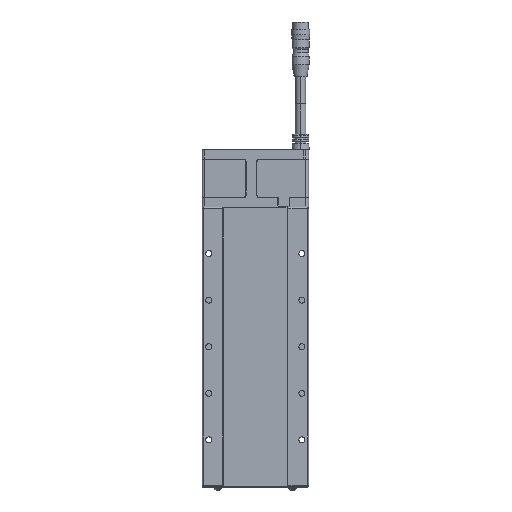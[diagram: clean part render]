
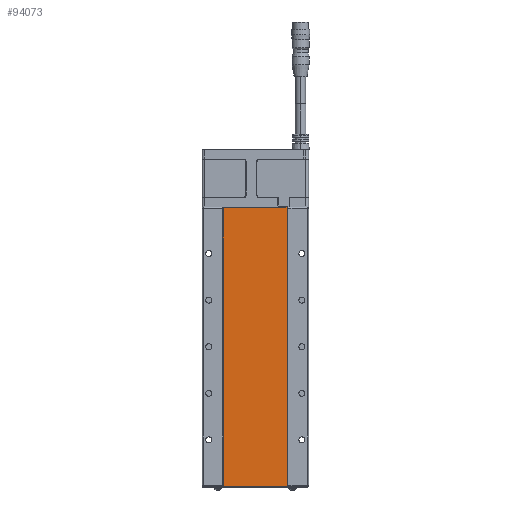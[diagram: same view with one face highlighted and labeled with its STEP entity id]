
A CAD part, front view. The second image highlights one B-rep face of the part: STEP entity #94073.
In plain terms, the highlighted planar face has unit normal (0, -1, 0).
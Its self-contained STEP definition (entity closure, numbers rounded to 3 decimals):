
#158 = DIRECTION ( 'NONE',  ( 0., 1., 0. ) ) ;
#693 = CARTESIAN_POINT ( 'NONE',  ( -24.3, 0.5, 209.8 ) ) ;
#1294 = ORIENTED_EDGE ( 'NONE', *, *, #10827, .F. ) ;
#3027 = CARTESIAN_POINT ( 'NONE',  ( -24.3, 0.5, 0.2 ) ) ;
#3192 = VERTEX_POINT ( 'NONE', #95956 ) ;
#4193 = DIRECTION ( 'NONE',  ( -1., 0., 0. ) ) ;
#5113 = CIRCLE ( 'NONE', #63849, 0.5 ) ;
#9064 = ORIENTED_EDGE ( 'NONE', *, *, #69257, .F. ) ;
#9239 = VECTOR ( 'NONE', #31533, 1000. ) ;
#9788 = ORIENTED_EDGE ( 'NONE', *, *, #12616, .T. ) ;
#10712 = AXIS2_PLACEMENT_3D ( 'NONE', #102258, #86570, #102789 ) ;
#10827 = EDGE_CURVE ( 'NONE', #105208, #3192, #33896, .T. ) ;
#11291 = DIRECTION ( 'NONE',  ( -1., 0., 0. ) ) ;
#12297 = ORIENTED_EDGE ( 'NONE', *, *, #87023, .T. ) ;
#12616 = EDGE_CURVE ( 'NONE', #62281, #93630, #40659, .T. ) ;
#13201 = EDGE_CURVE ( 'NONE', #105208, #79908, #87557, .T. ) ;
#15980 = VECTOR ( 'NONE', #100419, 1000. ) ;
#17546 = CARTESIAN_POINT ( 'NONE',  ( -24.3, 0.5, 0.2 ) ) ;
#19359 = CARTESIAN_POINT ( 'NONE',  ( 22.3, 0.5, 209.3 ) ) ;
#21733 = CARTESIAN_POINT ( 'NONE',  ( -23.8, 0.5, 209.3 ) ) ;
#21991 = EDGE_CURVE ( 'NONE', #93630, #35818, #89404, .T. ) ;
#22932 = CARTESIAN_POINT ( 'NONE',  ( 22.3, 0.5, 209.8 ) ) ;
#24521 = CARTESIAN_POINT ( 'NONE',  ( -24.3, 0.5, 0.7 ) ) ;
#24967 = LINE ( 'NONE', #93640, #48491 ) ;
#30259 = VERTEX_POINT ( 'NONE', #82169 ) ;
#31138 = VERTEX_POINT ( 'NONE', #39949 ) ;
#31437 = CARTESIAN_POINT ( 'NONE',  ( 23.8, 0.5, 0.2 ) ) ;
#31533 = DIRECTION ( 'NONE',  ( -1., 0., 0. ) ) ;
#32913 = EDGE_CURVE ( 'NONE', #73315, #77175, #91690, .T. ) ;
#33896 = LINE ( 'NONE', #83101, #15980 ) ;
#35818 = VERTEX_POINT ( 'NONE', #22932 ) ;
#35835 = ORIENTED_EDGE ( 'NONE', *, *, #13201, .T. ) ;
#37471 = DIRECTION ( 'NONE',  ( 0., -1., 0. ) ) ;
#39029 = VERTEX_POINT ( 'NONE', #19359 ) ;
#39949 = CARTESIAN_POINT ( 'NONE',  ( -24.3, 0.5, 209.3 ) ) ;
#40659 = CIRCLE ( 'NONE', #99331, 0.5 ) ;
#41624 = ORIENTED_EDGE ( 'NONE', *, *, #59322, .T. ) ;
#42963 = FACE_OUTER_BOUND ( 'NONE', #92964, .T. ) ;
#46442 = CARTESIAN_POINT ( 'NONE',  ( -24.3, 0.5, 209.8 ) ) ;
#46644 = DIRECTION ( 'NONE',  ( -1., 0., 0. ) ) ;
#48491 = VECTOR ( 'NONE', #67134, 1000. ) ;
#49480 = DIRECTION ( 'NONE',  ( -1., 0., 0. ) ) ;
#49897 = VECTOR ( 'NONE', #84106, 1000. ) ;
#52852 = DIRECTION ( 'NONE',  ( 0., 0., -1. ) ) ;
#54060 = DIRECTION ( 'NONE',  ( 0., -1., 0. ) ) ;
#57351 = AXIS2_PLACEMENT_3D ( 'NONE', #693, #158, #49480 ) ;
#57943 = AXIS2_PLACEMENT_3D ( 'NONE', #21733, #37471, #46644 ) ;
#59088 = CIRCLE ( 'NONE', #10712, 0.5 ) ;
#59322 = EDGE_CURVE ( 'NONE', #30259, #62281, #65285, .T. ) ;
#60225 = PLANE ( 'NONE',  #57351 ) ;
#60593 = CARTESIAN_POINT ( 'NONE',  ( 22.3, 0.5, 209.8 ) ) ;
#62281 = VERTEX_POINT ( 'NONE', #97652 ) ;
#63849 = AXIS2_PLACEMENT_3D ( 'NONE', #69212, #54060, #11291 ) ;
#64253 = ORIENTED_EDGE ( 'NONE', *, *, #79699, .T. ) ;
#64747 = DIRECTION ( 'NONE',  ( 0., 0., 1. ) ) ;
#65131 = VECTOR ( 'NONE', #64747, 1000. ) ;
#65188 = ORIENTED_EDGE ( 'NONE', *, *, #32913, .T. ) ;
#65285 = LINE ( 'NONE', #98271, #65131 ) ;
#65999 = CARTESIAN_POINT ( 'NONE',  ( -23.8, 0.5, 0.2 ) ) ;
#67134 = DIRECTION ( 'NONE',  ( 1., 0., 0. ) ) ;
#67172 = EDGE_CURVE ( 'NONE', #77175, #30259, #5113, .T. ) ;
#67732 = CARTESIAN_POINT ( 'NONE',  ( 20.3, 0.5, 209.8 ) ) ;
#68059 = VECTOR ( 'NONE', #52852, 1000. ) ;
#68185 = LINE ( 'NONE', #60593, #79844 ) ;
#69212 = CARTESIAN_POINT ( 'NONE',  ( 23.8, 0.5, 0.7 ) ) ;
#69257 = EDGE_CURVE ( 'NONE', #39029, #35818, #68185, .T. ) ;
#73315 = VERTEX_POINT ( 'NONE', #65999 ) ;
#73314 = DIRECTION ( 'NONE',  ( -1., 0., 0. ) ) ;
#73786 = DIRECTION ( 'NONE',  ( 0., 0., 1. ) ) ;
#75405 = DIRECTION ( 'NONE',  ( 0., -1., 0. ) ) ;
#75572 = LINE ( 'NONE', #3027, #68059 ) ;
#77141 = CARTESIAN_POINT ( 'NONE',  ( 23.8, 0.5, 209.8 ) ) ;
#77175 = VERTEX_POINT ( 'NONE', #31437 ) ;
#79699 = EDGE_CURVE ( 'NONE', #31138, #102502, #75572, .T. ) ;
#79844 = VECTOR ( 'NONE', #73786, 1000. ) ;
#79908 = VERTEX_POINT ( 'NONE', #101962 ) ;
#82169 = CARTESIAN_POINT ( 'NONE',  ( 24.3, 0.5, 0.7 ) ) ;
#83101 = CARTESIAN_POINT ( 'NONE',  ( 20.3, 0.5, 209.8 ) ) ;
#83867 = VECTOR ( 'NONE', #4193, 1000. ) ;
#84106 = DIRECTION ( 'NONE',  ( 1., 0., 0. ) ) ;
#86570 = DIRECTION ( 'NONE',  ( 0., -1., 0. ) ) ;
#87023 = EDGE_CURVE ( 'NONE', #102502, #73315, #59088, .T. ) ;
#87557 = LINE ( 'NONE', #46442, #83867 ) ;
#89404 = LINE ( 'NONE', #106180, #9239 ) ;
#91690 = LINE ( 'NONE', #17546, #49897 ) ;
#92820 = EDGE_CURVE ( 'NONE', #3192, #39029, #24967, .T. ) ;
#92861 = ORIENTED_EDGE ( 'NONE', *, *, #92820, .F. ) ;
#92964 = EDGE_LOOP ( 'NONE', ( #92861, #1294, #35835, #96970, #64253, #12297, #65188, #101206, #41624, #9788, #93753, #9064 ) ) ;
#93630 = VERTEX_POINT ( 'NONE', #77141 ) ;
#93640 = CARTESIAN_POINT ( 'NONE',  ( 20.3, 0.5, 209.3 ) ) ;
#93753 = ORIENTED_EDGE ( 'NONE', *, *, #21991, .T. ) ;
#94073 = ADVANCED_FACE ( 'NONE', ( #42963 ), #60225, .F. ) ;
#95956 = CARTESIAN_POINT ( 'NONE',  ( 20.3, 0.5, 209.3 ) ) ;
#96970 = ORIENTED_EDGE ( 'NONE', *, *, #97367, .T. ) ;
#97367 = EDGE_CURVE ( 'NONE', #79908, #31138, #104379, .T. ) ;
#97652 = CARTESIAN_POINT ( 'NONE',  ( 24.3, 0.5, 209.3 ) ) ;
#98271 = CARTESIAN_POINT ( 'NONE',  ( 24.3, 0.5, 0.2 ) ) ;
#99331 = AXIS2_PLACEMENT_3D ( 'NONE', #106312, #75405, #73314 ) ;
#100419 = DIRECTION ( 'NONE',  ( 0., 0., -1. ) ) ;
#101206 = ORIENTED_EDGE ( 'NONE', *, *, #67172, .T. ) ;
#101962 = CARTESIAN_POINT ( 'NONE',  ( -23.8, 0.5, 209.8 ) ) ;
#102258 = CARTESIAN_POINT ( 'NONE',  ( -23.8, 0.5, 0.7 ) ) ;
#102502 = VERTEX_POINT ( 'NONE', #24521 ) ;
#102789 = DIRECTION ( 'NONE',  ( -1., 0., 0. ) ) ;
#104379 = CIRCLE ( 'NONE', #57943, 0.5 ) ;
#105208 = VERTEX_POINT ( 'NONE', #67732 ) ;
#106180 = CARTESIAN_POINT ( 'NONE',  ( -24.3, 0.5, 209.8 ) ) ;
#106312 = CARTESIAN_POINT ( 'NONE',  ( 23.8, 0.5, 209.3 ) ) ;
